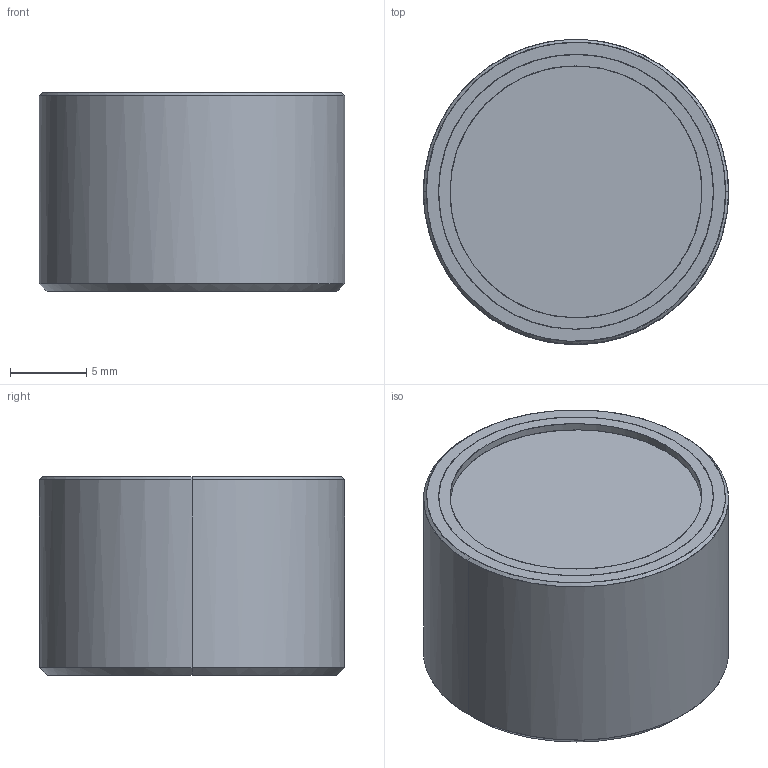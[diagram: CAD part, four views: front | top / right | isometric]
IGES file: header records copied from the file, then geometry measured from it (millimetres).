
Global section: file name: E:\UnigraphicsGraphicData\MISUMI_PRESS-PARTS\IGES\3d_hxu20_00550_r00.igs; native system: NX V5.0; preprocessor: UGS NX IGES V5.0; author: MISUMI; date: 20110105.161100; units: millimetre
Bounding box: 20 x 19.99 x 13 mm (x, y, z)
Surface area: 3175 mm2 (no closed solid volume)
Topology: 0 solids, 0 shells, 26 faces, 184 edges, 184 vertices
Faces by surface type: bspline 26
